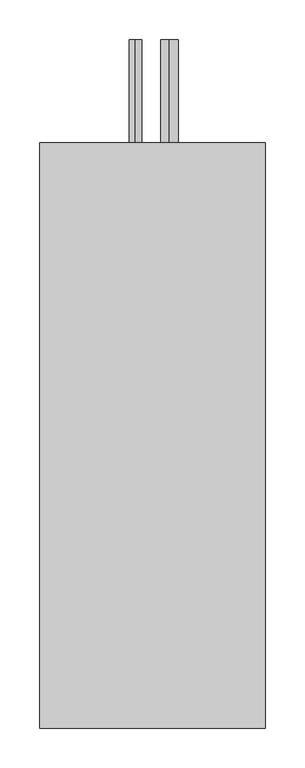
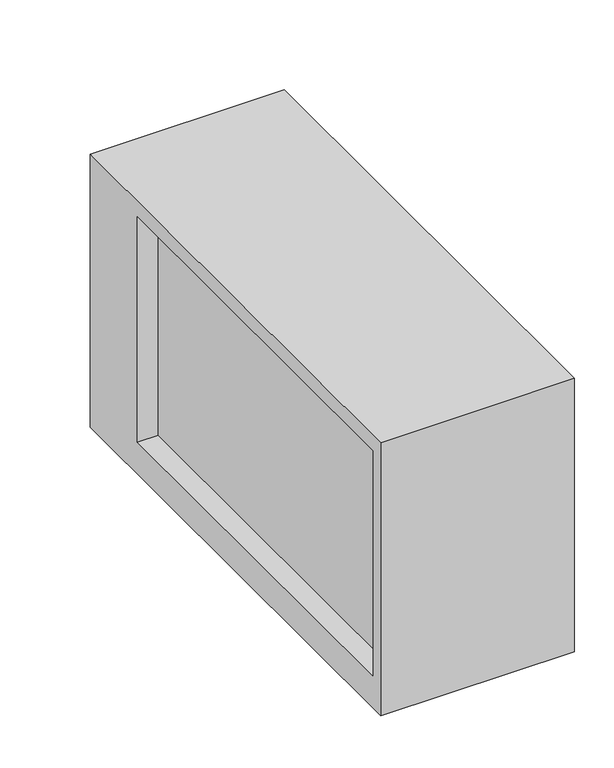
"""IFC4 building model written with IfcOpenShell, lengths in millimetres: proxy geometry, СВ_ВоздухоохладительФреоновый_КанальныйПрямоугольный_200-1000_SPC-F : SPC-F-600x350-L."""

import ifcopenshell
import ifcopenshell.guid

model = None  # the IFC model being written
_history = None  # IfcOwnerHistory: only IFC2X3 demands one
_inside = {}  # id of a spatial element -> (the spatial element, [elements in it])
_under = {}  # id of a project, library or spatial element -> (it, [spatial elements below it])
_declared = {}  # id of a project -> (the project, [libraries it declares])
_typed = {}  # id of a type object -> (the type object, [elements of that type])
_made_of = {}  # id of a material, layer set ... -> (it, [elements and type objects made of it])


def new_model(schema):
    """Start an empty IFC model of exactly this schema.

    Asked for "IFC4X3", IfcOpenShell would pick the latest addendum, in which some entities
    have other attributes; the version numbers below select the first issue.
    IFC2X3 requires an IfcOwnerHistory on every rooted entity: one is made here for all.
    """
    global model, _history
    if schema == "IFC4X3":
        model = ifcopenshell.file(schema_version=(4, 3, 0, 0))
    else:
        model = ifcopenshell.file(schema=schema)
    _inside.clear()
    _under.clear()
    _declared.clear()
    _typed.clear()
    _made_of.clear()
    _history = None
    if model.schema == "IFC2X3":
        org = make("IfcOrganization", Name="unknown")
        user = make(
            "IfcPersonAndOrganization",
            ThePerson=make("IfcPerson", FamilyName="unknown"),
            TheOrganization=org,
        )
        app = make(
            "IfcApplication",
            ApplicationDeveloper=org,
            Version="unknown",
            ApplicationFullName="unknown",
            ApplicationIdentifier="unknown",
        )
        _history = make(
            "IfcOwnerHistory",
            OwningUser=user,
            OwningApplication=app,
            ChangeAction="ADDED",
            CreationDate=0,
        )
    return model


def make(cls, **values):
    """One entity of the class cls with the attributes given. An attribute that is None is left unset."""
    return model.create_entity(
        cls, **{name: value for name, value in values.items() if value is not None}
    )


def rooted(cls, **values):
    """An entity with a GlobalId (a new one), such as an element, a storey or a relation."""
    return make(cls, GlobalId=ifcopenshell.guid.new(), OwnerHistory=_history, **values)


def si_unit(unit_type, name, prefix=None):
    """IfcSIUnit, for example si_unit("LENGTHUNIT", "METRE", prefix="MILLI")."""
    return make("IfcSIUnit", UnitType=unit_type, Prefix=prefix, Name=name)


def assignment(units):
    """IfcUnitAssignment: the units of a project."""
    return None if units is None else make("IfcUnitAssignment", Units=units)


def point(xyz):
    """IfcCartesianPoint."""
    return None if xyz is None else make("IfcCartesianPoint", Coordinates=xyz)


def direction(xyz):
    """IfcDirection."""
    return None if xyz is None else make("IfcDirection", DirectionRatios=xyz)


def frame(location, z_axis=None, x_axis=None):
    """IfcAxis2Placement3D, a coordinate frame: its origin and axes. An axis left out is left unset."""
    return make(
        "IfcAxis2Placement3D",
        Location=point(location),
        Axis=direction(z_axis),
        RefDirection=direction(x_axis),
    )


def frame_2d(location, x_axis=None):
    """IfcAxis2Placement2D, a coordinate frame in the plane: its origin and x axis."""
    return make(
        "IfcAxis2Placement2D", Location=point(location), RefDirection=direction(x_axis)
    )


def origin():
    """The frame at (0, 0, 0) with its axes left unset."""
    return frame((0.0, 0.0, 0.0))


def place(relative_to, where):
    """IfcLocalPlacement: puts the frame where relative to a parent placement (None: the world)."""
    return make(
        "IfcLocalPlacement", PlacementRelTo=relative_to, RelativePlacement=where
    )


def context(
    kind, dimensions, precision=None, world=None, true_north=None, identifier=None
):
    """IfcGeometricRepresentationContext, for example the 3D "Model" context."""
    return make(
        "IfcGeometricRepresentationContext",
        ContextIdentifier=identifier,
        ContextType=kind,
        CoordinateSpaceDimension=dimensions,
        Precision=precision,
        WorldCoordinateSystem=world,
        TrueNorth=true_north,
    )


def project(units=None, contexts=None):
    """IfcProject with its units and contexts."""
    return rooted(
        "IfcProject",
        Name="project",
        RepresentationContexts=contexts,
        UnitsInContext=assignment(units),
    )


def spatial(cls, under=None, at=None, **own):
    """A site, building, storey or space (cls), placed at a placement, below another one or the project."""
    s = rooted(cls, ObjectPlacement=at, **own)
    if under is not None:
        _under.setdefault(under.id(), (under, []))[1].append(s)
    return s


def polyline(points):
    """IfcPolyline through the points."""
    return make("IfcPolyline", Points=[point(p) for p in points])


def circle_curve(where, radius):
    """IfcCircle in the frame where."""
    return make("IfcCircle", Position=where, Radius=radius)


def trimmed(basis, trim1, trim2, sense, master):
    """IfcTrimmedCurve: the piece of a basis curve between two trims."""
    return make(
        "IfcTrimmedCurve",
        BasisCurve=basis,
        Trim1=trim1,
        Trim2=trim2,
        SenseAgreement=sense,
        MasterRepresentation=master,
    )


def segment(curve, same_sense, transition):
    """IfcCompositeCurveSegment."""
    return make(
        "IfcCompositeCurveSegment",
        Transition=transition,
        SameSense=same_sense,
        ParentCurve=curve,
    )


def composite_curve(segments, self_intersect=None):
    """IfcCompositeCurve: segments joined end to end."""
    return make("IfcCompositeCurve", Segments=segments, SelfIntersect=self_intersect)


def outline(outer, holes=None, kind="AREA"):
    """IfcArbitraryClosedProfileDef: a profile drawn as a closed curve; with holes, ...WithVoids."""
    if holes is None:
        return make("IfcArbitraryClosedProfileDef", ProfileType=kind, OuterCurve=outer)
    return make(
        "IfcArbitraryProfileDefWithVoids",
        ProfileType=kind,
        OuterCurve=outer,
        InnerCurves=holes,
    )


def extrude(swept, where, along, depth):
    """IfcExtrudedAreaSolid: the profile swept, set in the frame where, extruded along a direction by depth."""
    return make(
        "IfcExtrudedAreaSolid",
        SweptArea=swept,
        Position=where,
        ExtrudedDirection=direction(along),
        Depth=depth,
    )


def shape(context_of_items, identifier, shape_type, items):
    """IfcShapeRepresentation: the items that make up one representation, for example the "Body"."""
    return make(
        "IfcShapeRepresentation",
        ContextOfItems=context_of_items,
        RepresentationIdentifier=identifier,
        RepresentationType=shape_type,
        Items=items,
    )


def source(mapping_origin, context_of_items, identifier, shape_type, items):
    """IfcRepresentationMap: a shape defined once, which mapped items show again and again."""
    return make(
        "IfcRepresentationMap",
        MappingOrigin=mapping_origin,
        MappedRepresentation=shape(context_of_items, identifier, shape_type, items),
    )


def transform(
    local_origin,
    x_axis=None,
    y_axis=None,
    z_axis=None,
    scale=None,
    scale2=None,
    scale3=None,
    uniform=True,
):
    """IfcCartesianTransformationOperator3D, or its non-uniform kind. x_axis, y_axis, z_axis: its Axis1, 2, 3."""
    if uniform:
        return make(
            "IfcCartesianTransformationOperator3D",
            Axis1=direction(x_axis),
            Axis2=direction(y_axis),
            LocalOrigin=point(local_origin),
            Scale=scale,
            Axis3=direction(z_axis),
        )
    return make(
        "IfcCartesianTransformationOperator3DnonUniform",
        Axis1=direction(x_axis),
        Axis2=direction(y_axis),
        LocalOrigin=point(local_origin),
        Scale=scale,
        Axis3=direction(z_axis),
        Scale2=scale2,
        Scale3=scale3,
    )


def mapped(mapping_source, mapping_target):
    """IfcMappedItem: shows the shape of a source again, moved by a transform."""
    return make(
        "IfcMappedItem", MappingSource=mapping_source, MappingTarget=mapping_target
    )


def made_of(thing, what):
    """Note that an element or type object is made of a material, layer set ...; save() writes the relation."""
    if what is not None:
        _made_of.setdefault(what.id(), (what, []))[1].append(thing)
    return thing


def element(
    cls,
    number,
    at=None,
    inside=None,
    cuts=None,
    type_object=None,
    material=None,
    context=None,
    identifier="Body",
    shape_type=None,
    held_by="IfcProductDefinitionShape",
    body=None,
    shapes=None,
    **own,
):
    """One element of the class cls, such as IfcWall. Its Tag is "e" and its number.

    at: its placement. inside: the storey or other place that contains it. cuts: it is an
    opening in that element (IfcRelVoidsElement). A single representation is given by context,
    identifier, shape_type and body (its items); several are given by shapes. held_by: the class
    of the entity that holds the representations. save() writes the other relations.
    """
    e = rooted(cls, Tag="e%d" % number, ObjectPlacement=at, **own)
    if body is not None:
        shapes = [shape(context, identifier, shape_type, body)]
    if shapes is not None:
        e.Representation = make(held_by, Representations=shapes)
    if inside is not None:
        _inside.setdefault(inside.id(), (inside, []))[1].append(e)
    if cuts is not None:
        rooted(
            "IfcRelVoidsElement", RelatingBuildingElement=cuts, RelatedOpeningElement=e
        )
    if type_object is not None:
        _typed.setdefault(type_object.id(), (type_object, []))[1].append(e)
    return made_of(e, material)


def aggregate(whole, parts):
    """IfcRelAggregates: a whole, such as a stair, and the parts it consists of."""
    return rooted("IfcRelAggregates", RelatingObject=whole, RelatedObjects=parts)


def save(model, path):
    """Write the relations noted so far, then the file.

    IfcRelAggregates (storeys below a building ...), IfcRelContainedInSpatialStructure (elements
    in a storey), IfcRelDefinesByType, IfcRelAssociatesMaterial and IfcRelDeclares: one each for
    every whole, place, type object, material and project.
    """
    for whole, parts in _under.values():
        aggregate(whole, parts)
    for where, things in _inside.values():
        rooted(
            "IfcRelContainedInSpatialStructure",
            RelatedElements=things,
            RelatingStructure=where,
        )
    for kind, things in _typed.values():
        rooted("IfcRelDefinesByType", RelatedObjects=things, RelatingType=kind)
    for what, things in _made_of.values():
        rooted("IfcRelAssociatesMaterial", RelatedObjects=things, RelatingMaterial=what)
    for by, libraries in _declared.values():
        rooted("IfcRelDeclares", RelatingContext=by, RelatedDefinitions=libraries)
    model.write(path)


def mechanical_equipment_89104145(model_context):
    return source(origin(), model_context, "Body", "SweptSolid", [
        extrude(outline(polyline([(-320.0, -225.0), (-320.0, 200.0), (420.0, 200.0), (420.0, -225.0), (-320.0, -225.0)]), holes=[polyline([(-300.0, 175.0), (-300.0, -175.0), (300.0, -175.0), (300.0, 175.0), (-300.0, 175.0)])]), frame((-142.5, 0.0, 0.0), z_axis=(1.0, 0.0, 0.0), x_axis=(0.0, 1.0, 0.0)), (0.0, 0.0, 1.0), 285.0),
        extrude(outline(composite_curve([segment(trimmed(circle_curve(frame_2d((-125.0, 21.5)), 11.1), [point((-136.1, 21.5))], [point((-113.9, 21.5))], False, "CARTESIAN"), True, "CONTINUOUS"), segment(trimmed(circle_curve(frame_2d((-125.0, 21.5)), 11.1), [point((-113.9, 21.5))], [point((-136.1, 21.5))], False, "CARTESIAN"), True, "CONTINUOUS")], self_intersect=False)), frame((0.0, 420.0, 0.0), z_axis=(0.0, 1.0, 0.0), x_axis=(0.0, 0.0, 1.0)), (0.0, 0.0, 1.0), 130.0),
        extrude(outline(composite_curve([segment(trimmed(circle_curve(frame_2d((65.0, -21.5)), 7.95), [point((57.05, -21.5))], [point((72.95, -21.5))], False, "CARTESIAN"), True, "CONTINUOUS"), segment(trimmed(circle_curve(frame_2d((65.0, -21.5)), 7.95), [point((72.95, -21.5))], [point((57.05, -21.5))], False, "CARTESIAN"), True, "CONTINUOUS")], self_intersect=False)), frame((0.0, 420.0, 0.0), z_axis=(0.0, 1.0, 0.0), x_axis=(0.0, 0.0, 1.0)), (0.0, 0.0, 1.0), 130.0),
        extrude(outline(composite_curve([segment(trimmed(circle_curve(frame_2d((0.0, 380.0)), 11.0), [point((-11.0, 380.0))], [point((11.0, 380.0))], False, "CARTESIAN"), True, "CONTINUOUS"), segment(trimmed(circle_curve(frame_2d((0.0, 380.0)), 11.0), [point((11.0, 380.0))], [point((-11.0, 380.0))], False, "CARTESIAN"), True, "CONTINUOUS")], self_intersect=False)), frame((0.0, 0.0, -245.0), z_axis=(0.0, 0.0, 1.0), x_axis=(1.0, 0.0, 0.0)), (0.0, 0.0, 1.0), 20.0),
        extrude(outline(polyline([(112.5, 300.0), (112.5, -300.0), (-112.5, -300.0), (-112.5, 300.0), (112.5, 300.0)])), frame((0.0, 0.0, -175.0), z_axis=(0.0, 0.0, 1.0), x_axis=(1.0, 0.0, 0.0)), (0.0, 0.0, 1.0), 350.0),
    ])


if __name__ == "__main__":
    model = new_model("IFC4")
    model_context = context("Model", 3, world=origin())
    ifc_project = project(units=[si_unit("LENGTHUNIT", "METRE", prefix="MILLI")], contexts=[model_context])
    site = spatial("IfcSite", under=ifc_project)
    building = spatial("IfcBuilding", under=site)
    placement = place(None, origin())
    mechanical_equipment_shape = mechanical_equipment_89104145(model_context)
    element("IfcBuildingElementProxy", 1, Name="СВ_ВоздухоохладительФреоновый_КанальныйПрямоугольный_200-1000_SPC-F : SPC-F-600x350-L", ObjectType="СВ_ВоздухоохладительФреоновый_КанальныйПрямоугольный_200-1000_SPC-F : SPC-F-600x350-L", at=placement, inside=building, context=model_context, shape_type="MappedRepresentation", body=[
        mapped(mechanical_equipment_shape, transform((0.0, 0.0, 0.0), x_axis=(1.0, 0.0, 0.0), y_axis=(0.0, 1.0, 0.0), z_axis=(0.0, 0.0, 1.0))),
    ])
    save(model, "model.ifc")
